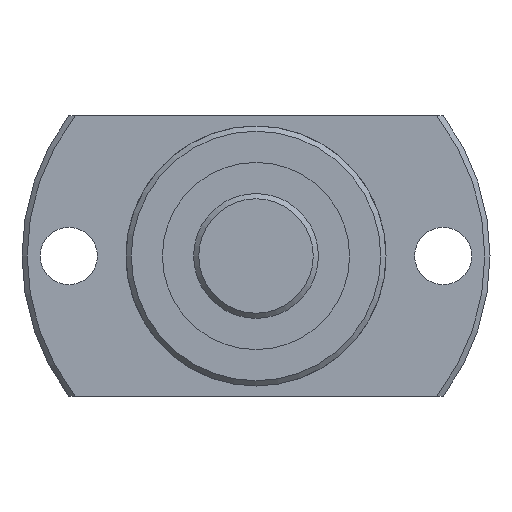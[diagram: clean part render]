
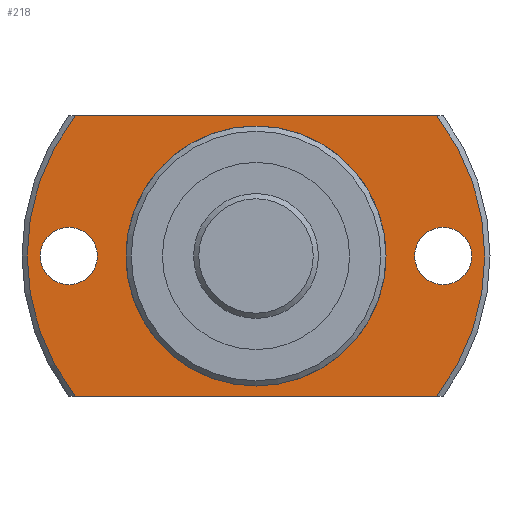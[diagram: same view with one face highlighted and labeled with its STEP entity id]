
A CAD part, left-side view. The second image highlights one B-rep face of the part: STEP entity #218.
In plain terms, the highlighted planar face has unit normal (-1, 0, 0).
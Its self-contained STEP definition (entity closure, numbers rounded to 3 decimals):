
#218 = ADVANCED_FACE( '', ( #368, #369, #370, #371 ), #372, .F. );
#368 = FACE_OUTER_BOUND( '', #547, .T. );
#369 = FACE_BOUND( '', #548, .T. );
#370 = FACE_BOUND( '', #549, .T. );
#371 = FACE_BOUND( '', #550, .T. );
#372 = PLANE( '', #551 );
#547 = EDGE_LOOP( '', ( #934, #935, #936, #937 ) );
#548 = EDGE_LOOP( '', ( #938 ) );
#549 = EDGE_LOOP( '', ( #939 ) );
#550 = EDGE_LOOP( '', ( #940 ) );
#551 = AXIS2_PLACEMENT_3D( '', #941, #942, #943 );
#934 = ORIENTED_EDGE( '', *, *, #1143, .F. );
#935 = ORIENTED_EDGE( '', *, *, #1202, .T. );
#936 = ORIENTED_EDGE( '', *, *, #1213, .F. );
#937 = ORIENTED_EDGE( '', *, *, #1137, .T. );
#938 = ORIENTED_EDGE( '', *, *, #1198, .T. );
#939 = ORIENTED_EDGE( '', *, *, #1196, .T. );
#940 = ORIENTED_EDGE( '', *, *, #1214, .T. );
#941 = CARTESIAN_POINT( '', ( 19., 12.25, 0. ) );
#942 = DIRECTION( '', ( 1., 0., 0. ) );
#943 = DIRECTION( '', ( 0., 0., -1. ) );
#1137 = EDGE_CURVE( '', #1307, #1305, #1308, .T. );
#1143 = EDGE_CURVE( '', #1318, #1305, #1319, .T. );
#1196 = EDGE_CURVE( '', #1413, #1413, #1414, .T. );
#1198 = EDGE_CURVE( '', #1417, #1417, #1418, .T. );
#1202 = EDGE_CURVE( '', #1318, #1424, #1426, .T. );
#1213 = EDGE_CURVE( '', #1307, #1424, #1441, .T. );
#1214 = EDGE_CURVE( '', #1442, #1442, #1443, .T. );
#1305 = VERTEX_POINT( '', #1568 );
#1307 = VERTEX_POINT( '', #1573 );
#1308 = LINE( '', #1574, #1575 );
#1318 = VERTEX_POINT( '', #1596 );
#1319 = CIRCLE( '', #1597, 22. );
#1413 = VERTEX_POINT( '', #1762 );
#1414 = CIRCLE( '', #1763, 2.75 );
#1417 = VERTEX_POINT( '', #1766 );
#1418 = CIRCLE( '', #1767, 2.75 );
#1424 = VERTEX_POINT( '', #1774 );
#1426 = LINE( '', #1779, #1780 );
#1441 = CIRCLE( '', #1803, 22. );
#1442 = VERTEX_POINT( '', #1804 );
#1443 = CIRCLE( '', #1805, 12.25 );
#1568 = CARTESIAN_POINT( '', ( 19., 17.371, 13.5 ) );
#1573 = CARTESIAN_POINT( '', ( 19., -17.371, 13.5 ) );
#1574 = CARTESIAN_POINT( '', ( 19., 12.25, 13.5 ) );
#1575 = VECTOR( '', #1962, 1000. );
#1596 = CARTESIAN_POINT( '', ( 19., 17.371, -13.5 ) );
#1597 = AXIS2_PLACEMENT_3D( '', #1965, #1966, #1967 );
#1762 = CARTESIAN_POINT( '', ( 19., -18., -2.75 ) );
#1763 = AXIS2_PLACEMENT_3D( '', #2059, #2060, #2061 );
#1766 = CARTESIAN_POINT( '', ( 19., 18., -2.75 ) );
#1767 = AXIS2_PLACEMENT_3D( '', #2065, #2066, #2067 );
#1774 = CARTESIAN_POINT( '', ( 19., -17.371, -13.5 ) );
#1779 = CARTESIAN_POINT( '', ( 19., 12.25, -13.5 ) );
#1780 = VECTOR( '', #2072, 1000. );
#1803 = AXIS2_PLACEMENT_3D( '', #2093, #2094, #2095 );
#1804 = CARTESIAN_POINT( '', ( 19., 0., -12.25 ) );
#1805 = AXIS2_PLACEMENT_3D( '', #2096, #2097, #2098 );
#1962 = DIRECTION( '', ( 0., 1., 0. ) );
#1965 = CARTESIAN_POINT( '', ( 19., 0., 0. ) );
#1966 = DIRECTION( '', ( 1., 0., 0. ) );
#1967 = DIRECTION( '', ( 0., 0., -1. ) );
#2059 = CARTESIAN_POINT( '', ( 19., -18., 0. ) );
#2060 = DIRECTION( '', ( 1., 0., 0. ) );
#2061 = DIRECTION( '', ( 0., 0., -1. ) );
#2065 = CARTESIAN_POINT( '', ( 19., 18., 0. ) );
#2066 = DIRECTION( '', ( 1., 0., 0. ) );
#2067 = DIRECTION( '', ( 0., 0., -1. ) );
#2072 = DIRECTION( '', ( 0., -1., 0. ) );
#2093 = CARTESIAN_POINT( '', ( 19., 0., 0. ) );
#2094 = DIRECTION( '', ( 1., 0., 0. ) );
#2095 = DIRECTION( '', ( 0., 0., -1. ) );
#2096 = CARTESIAN_POINT( '', ( 19., 0., 0. ) );
#2097 = DIRECTION( '', ( 1., 0., 0. ) );
#2098 = DIRECTION( '', ( 0., 0., -1. ) );
